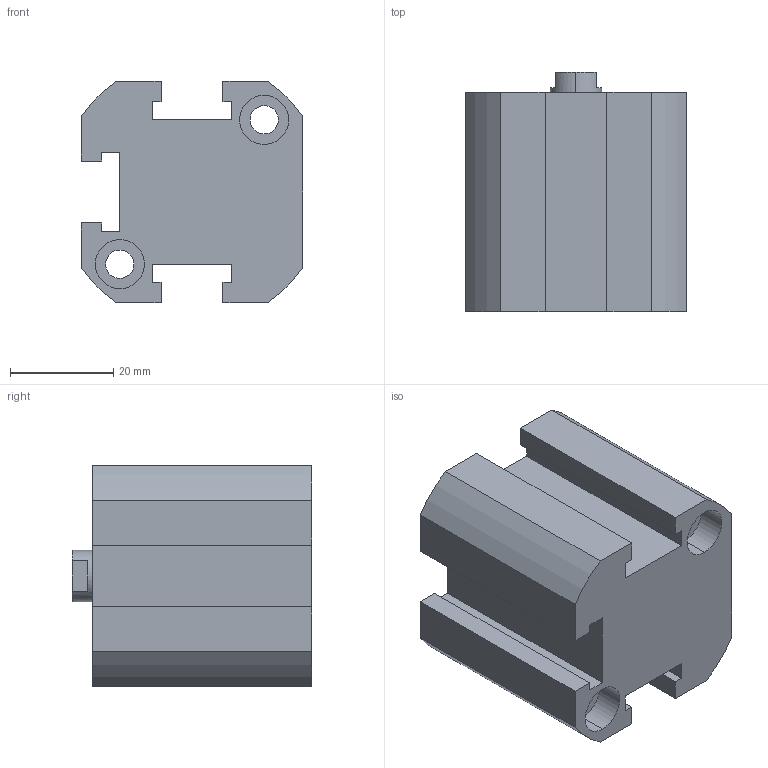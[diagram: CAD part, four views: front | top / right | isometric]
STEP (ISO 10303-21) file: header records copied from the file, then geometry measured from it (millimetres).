
FILE_DESCRIPTION (( 'STEP AP203' ), '1' );
FILE_NAME ('XG#2-25D-10.STEP', '2016-05-24T01:47:38', ( '' ), ( '' ), 'SwSTEP 2.0', 'SolidWorks 2014', '' );
FILE_SCHEMA (( 'CONFIG_CONTROL_DESIGN' ));
Length unit declared in the file: millimetre
Products named in the file (1): XG#2-25D-10
Bounding box: 43 x 46.5 x 43 mm (x, y, z)
Volume: 58133.7 mm3; surface area: 14962.1 mm2
Topology: 1 solids, 1 shells, 92 faces, 235 edges, 151 vertices
Faces by surface type: plane 44, cylinder 42, cone 6
Entity records: 2846 total; most frequent: DIRECTION 503, CARTESIAN_POINT 473, ORIENTED_EDGE 458, EDGE_CURVE 229, AXIS2_PLACEMENT_3D 181, VERTEX_POINT 151, VECTOR 141, LINE 141
